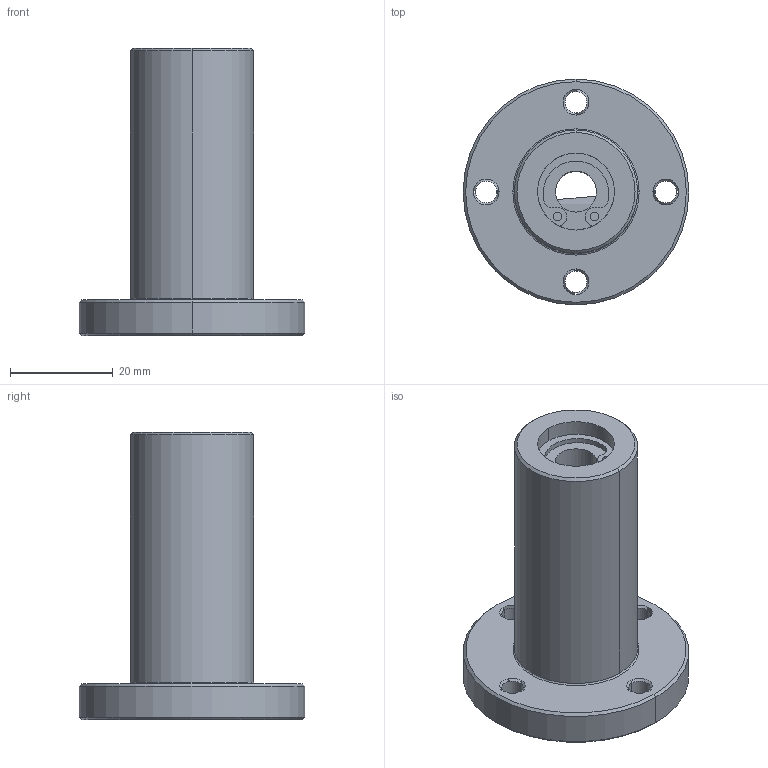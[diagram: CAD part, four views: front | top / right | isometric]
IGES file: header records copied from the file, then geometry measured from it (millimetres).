
Start section: 3D InterOp IGES (Version 21 0 1), Spatial Corp. Copyright (c) 1999-2007.
Global section: file name: LCFD-8AVUU.igs; native system: Spatial Corp.; preprocessor: 3D InterOp GENERIC/IGES 3.0; author: Noname; organization: Noname; date: 20220517.163438; units: millimetre
Bounding box: 44 x 44 x 56 mm (x, y, z)
Surface area: 9336.5 mm2 (no closed solid volume)
Topology: 0 solids, 0 shells, 88 faces, 434 edges, 434 vertices
Faces by surface type: revolution 72, extrusion 16
